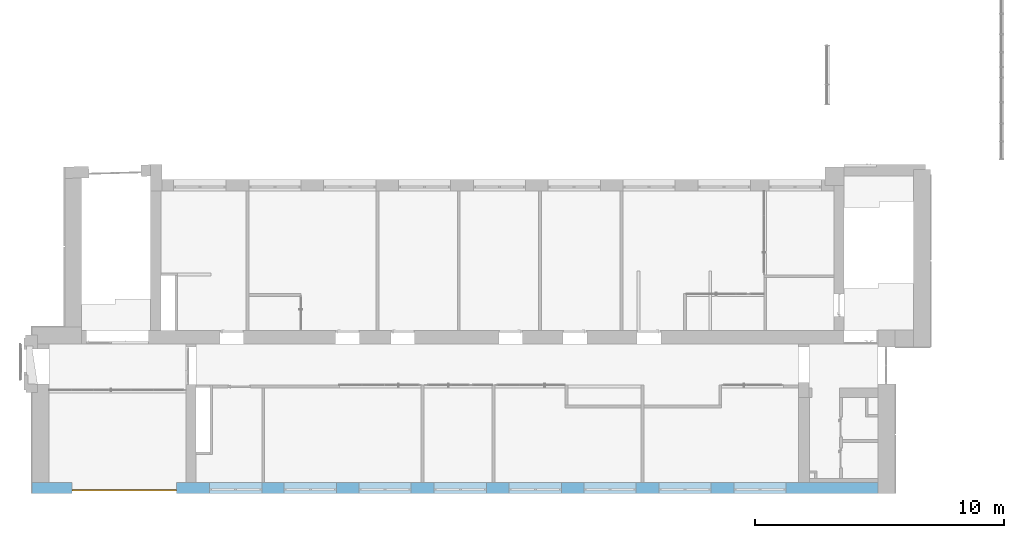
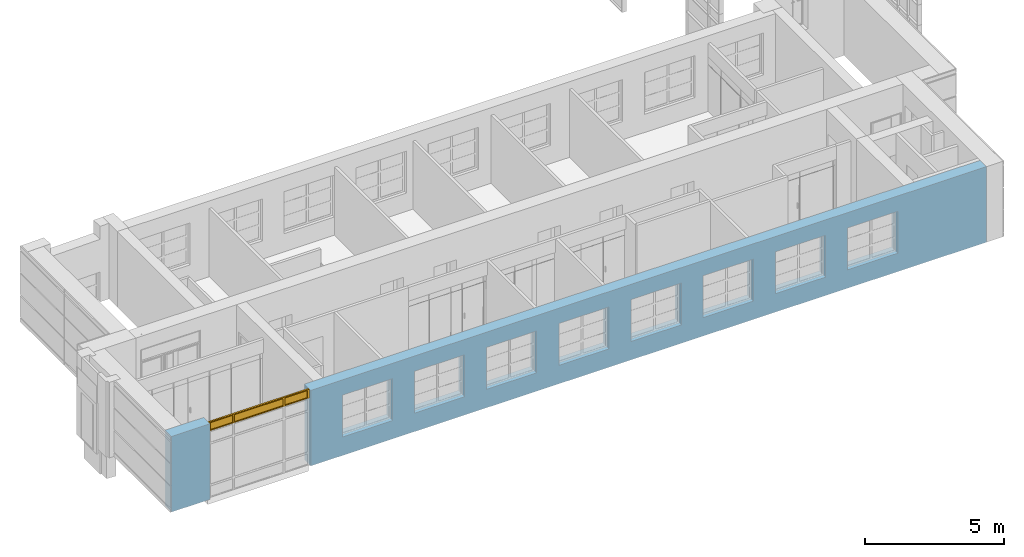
# One storey, part 54 of 73: 1 window, 10 openings, plus 1 element that does not belong to this part.
"""IFC2X3 building model written with IfcOpenShell, lengths in millimetres."""

from ifc_helpers import new_model, entity, si_unit, converted_unit, derived_unit, direction, frame, frame_2d, origin, origin_2d_with_axis, place, context, subcontext, project, spatial, rectangle, extrude, source, transform, mapped, material, material_list, layer, layer_set, layer_usage, type_object, type_shapes, element, fill, save


model = new_model("IFC2X3")

# Units and contexts
model_context = context("Model", 3, precision=0.01, world=origin(), true_north=direction((6.12303176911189e-17, 1.0)))
body_context = subcontext(model_context, "Body", "Model", "MODEL_VIEW")
ifc_project = project(units=[si_unit("LENGTHUNIT", "METRE", prefix="MILLI"), si_unit("AREAUNIT", "SQUARE_METRE"), si_unit("VOLUMEUNIT", "CUBIC_METRE"), converted_unit("PLANEANGLEUNIT", "DEGREE", entity("IfcRatioMeasure", 0.0174532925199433), si_unit("PLANEANGLEUNIT", "RADIAN"), dimensions=[0, 0, 0, 0, 0, 0, 0]), si_unit("MASSUNIT", "GRAM", prefix="KILO"), derived_unit("MASSDENSITYUNIT", [(si_unit("MASSUNIT", "GRAM", prefix="KILO"), 1), (si_unit("LENGTHUNIT", "METRE"), -3)]), si_unit("TIMEUNIT", "SECOND"), si_unit("FREQUENCYUNIT", "HERTZ"), si_unit("THERMODYNAMICTEMPERATUREUNIT", "DEGREE_CELSIUS"), derived_unit("THERMALTRANSMITTANCEUNIT", [(si_unit("MASSUNIT", "GRAM", prefix="KILO"), 1), (si_unit("THERMODYNAMICTEMPERATUREUNIT", "KELVIN"), -1), (si_unit("TIMEUNIT", "SECOND"), -3)]), derived_unit("VOLUMETRICFLOWRATEUNIT", [(si_unit("LENGTHUNIT", "METRE"), 3), (si_unit("TIMEUNIT", "SECOND"), -1)]), si_unit("ELECTRICCURRENTUNIT", "AMPERE"), si_unit("ELECTRICVOLTAGEUNIT", "VOLT"), si_unit("POWERUNIT", "WATT"), si_unit("FORCEUNIT", "NEWTON", prefix="KILO"), si_unit("ILLUMINANCEUNIT", "LUX"), si_unit("LUMINOUSFLUXUNIT", "LUMEN"), si_unit("LUMINOUSINTENSITYUNIT", "CANDELA"), derived_unit("USERDEFINED", [(si_unit("MASSUNIT", "GRAM", prefix="KILO"), -1), (si_unit("LENGTHUNIT", "METRE"), -2), (si_unit("TIMEUNIT", "SECOND"), 3), (si_unit("LUMINOUSFLUXUNIT", "LUMEN"), 1)]), derived_unit("LINEARVELOCITYUNIT", [(si_unit("LENGTHUNIT", "METRE"), 1), (si_unit("TIMEUNIT", "SECOND"), -1)]), si_unit("PRESSUREUNIT", "PASCAL"), derived_unit("USERDEFINED", [(si_unit("LENGTHUNIT", "METRE"), -2), (si_unit("MASSUNIT", "GRAM", prefix="KILO"), 1), (si_unit("TIMEUNIT", "SECOND"), -2)])], contexts=[model_context])

# Site, building, storey
site_placement = place(None, frame((-151.875543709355, 2715.0, 0.0)))
site = spatial("IfcSite", under=ifc_project, at=site_placement, Name="Surface", CompositionType="ELEMENT")
building_placement = place(site_placement, origin())
building = spatial("IfcBuilding", under=site, at=building_placement, CompositionType="ELEMENT")
storey_placement = place(building_placement, frame((0.0, 0.0, 6730.43000000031)))
storey = spatial("IfcBuildingStorey", under=building, at=storey_placement, Name="3 korrus", CompositionType="ELEMENT", Elevation=6730.43000000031)

# Wall, openings, window
ifc_material_1 = material(Name="Brick, Common")
ifc_layer_1 = layer(ifc_material_1, 440.0)
ifc_material_2 = material(Name="__Kips GN13_tava")
ifc_layer_2 = layer(ifc_material_2, 20.0)
ifc_layer_set = layer_set([ifc_layer_1, ifc_layer_2], Name="Basic Wall:VS-1")
ifc_layer_usage = layer_usage(ifc_layer_set, "AXIS2", "NEGATIVE", 230.0)
wall_type = type_object("IfcWallType", Name="Basic Wall:VS-1", PredefinedType="STANDARD", material=ifc_layer_set)
wall_placement = place(storey_placement, frame((33741.6162682, 229.904632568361, 0.00203353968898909), z_axis=(0.0, 0.0, 1.0), x_axis=(-1.0, 0.0, 0.0)))
wall = element("IfcWallStandardCase", 1, at=wall_placement, inside=storey, type_object=wall_type, material=ifc_layer_usage, Name="SEIN - 001", ObjectType="Basic Wall:VS-1", context=body_context, shape_type="SweptSolid", body=[
    extrude(rectangle(XDim=33960.7407226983, YDim=460.0, at=frame_2d((16980.3703613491, 0.0), x_axis=(-1.0, 0.0))), origin(), (0.0, 0.0, 1.0), 3329.56796646),
])
opening_1_placement = place(wall_placement, frame((33741.6162682, 229.904632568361, -0.00203353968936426), z_axis=(0.0, 0.0, 1.0), x_axis=(-1.0, 0.0, 0.0)))
element("IfcOpeningElement", 2, at=opening_1_placement, cuts=wall, Name="SEIN - 001", ObjectType="Opening", context=body_context, shape_type="SweptSolid", body=[
    extrude(rectangle(XDim=2934.86776352, YDim=4200.0, at=frame_2d((2.27373675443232e-13, -5.6843418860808e-13), x_axis=(0.0, 1.0))), frame((3483.85381698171, 928.104632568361, 1467.43591529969), z_axis=(0.0, -1.0, 0.0), x_axis=(-1.0, 0.0, 0.0)), (0.0, 0.0, 1.0), 1393.8),
])
opening_2_placement = place(wall_placement, frame((33741.6162682, 229.904632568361, -0.00203353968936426), z_axis=(0.0, 0.0, 1.0), x_axis=(-1.0, 0.0, 0.0)))
opening_2 = element("IfcOpeningElement", 3, at=opening_2_placement, cuts=wall, Name="SEIN - 001", ObjectType="Opening", context=body_context, shape_type="SweptSolid", body=[
    extrude(rectangle(XDim=394.700202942, YDim=4200.0, at=frame_2d((-5.40012479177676e-13, 0.0), x_axis=(1.0, 0.0))), frame((3483.85381698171, 928.104632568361, 3132.21989853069), z_axis=(0.0, -1.0, 0.0), x_axis=(0.0, 0.0, -1.0)), (0.0, 0.0, 1.0), 1393.8),
])
opening_3_placement = place(wall_placement, frame((33741.6162682, 229.904632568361, -0.00203353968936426), z_axis=(0.0, 0.0, 1.0), x_axis=(-1.0, 0.0, 0.0)))
element("IfcOpeningElement", 4, at=opening_3_placement, cuts=wall, Name="SEIN - 001", ObjectType="Opening", context=body_context, shape_type="SweptSolid", body=[
    extrude(rectangle(XDim=1850.0, YDim=2100.0, at=frame_2d((0.0, 1.02318153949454e-12), x_axis=(1.0, 0.0))), frame((10949.5647264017, 927.804632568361, 1734.63072998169), z_axis=(0.0, -1.0, 0.0), x_axis=(0.0, 0.0, 1.0)), (0.0, 0.0, 1.0), 1393.8),
])
opening_4_placement = place(wall_placement, frame((33741.6162682, 229.904632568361, -0.00203353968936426), z_axis=(0.0, 0.0, 1.0), x_axis=(-1.0, 0.0, 0.0)))
element("IfcOpeningElement", 5, at=opening_4_placement, cuts=wall, Name="SEIN - 001", ObjectType="Opening", context=body_context, shape_type="SweptSolid", body=[
    extrude(rectangle(XDim=1850.0, YDim=2100.0, at=frame_2d((0.0, 5.6843418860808e-13), x_axis=(1.0, 0.0))), frame((7949.56472636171, 927.804632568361, 1734.63072998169), z_axis=(0.0, -1.0, 0.0), x_axis=(0.0, 0.0, 1.0)), (0.0, 0.0, 1.0), 1393.8),
])
opening_5_placement = place(wall_placement, frame((33741.6162682, 229.904632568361, -0.00203353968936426), z_axis=(0.0, 0.0, 1.0), x_axis=(-1.0, 0.0, 0.0)))
element("IfcOpeningElement", 6, at=opening_5_placement, cuts=wall, Name="SEIN - 001", ObjectType="Opening", context=body_context, shape_type="SweptSolid", body=[
    extrude(rectangle(XDim=1850.0, YDim=2100.0, at=origin_2d_with_axis()), frame((13949.5647264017, 927.804632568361, 1734.63072998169), z_axis=(0.0, -1.0, 0.0), x_axis=(0.0, 0.0, 1.0)), (0.0, 0.0, 1.0), 1393.8),
])
opening_6_placement = place(wall_placement, frame((33741.6162682, 229.904632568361, -0.00203353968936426), z_axis=(0.0, 0.0, 1.0), x_axis=(-1.0, 0.0, 0.0)))
element("IfcOpeningElement", 7, at=opening_6_placement, cuts=wall, Name="SEIN - 001", ObjectType="Opening", context=body_context, shape_type="SweptSolid", body=[
    extrude(rectangle(XDim=1850.0, YDim=2100.0, at=frame_2d((0.0, 1.02318153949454e-12), x_axis=(1.0, 0.0))), frame((16969.5647264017, 927.804632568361, 1734.63072998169), z_axis=(0.0, -1.0, 0.0), x_axis=(0.0, 0.0, 1.0)), (0.0, 0.0, 1.0), 1393.8),
])
opening_7_placement = place(wall_placement, frame((33741.6162682, 229.904632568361, -0.00203353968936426), z_axis=(0.0, 0.0, 1.0), x_axis=(-1.0, 0.0, 0.0)))
element("IfcOpeningElement", 8, at=opening_7_placement, cuts=wall, Name="SEIN - 001", ObjectType="Opening", context=body_context, shape_type="SweptSolid", body=[
    extrude(rectangle(XDim=1850.0, YDim=2100.0, at=origin_2d_with_axis()), frame((19979.5647264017, 927.804632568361, 1734.63072998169), z_axis=(0.0, -1.0, 0.0), x_axis=(0.0, 0.0, 1.0)), (0.0, 0.0, 1.0), 1393.8),
])
opening_8_placement = place(wall_placement, frame((33741.6162682, 229.904632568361, -0.00203353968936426), z_axis=(0.0, 0.0, 1.0), x_axis=(-1.0, 0.0, 0.0)))
element("IfcOpeningElement", 9, at=opening_8_placement, cuts=wall, Name="SEIN - 001", ObjectType="Opening", context=body_context, shape_type="SweptSolid", body=[
    extrude(rectangle(XDim=1850.0, YDim=2100.0, at=origin_2d_with_axis()), frame((22979.5647264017, 927.804632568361, 1734.63072998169), z_axis=(0.0, -1.0, 0.0), x_axis=(0.0, 0.0, 1.0)), (0.0, 0.0, 1.0), 1393.8),
])
opening_9_placement = place(wall_placement, frame((33741.6162682, 229.904632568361, -0.00203353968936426), z_axis=(0.0, 0.0, 1.0), x_axis=(-1.0, 0.0, 0.0)))
element("IfcOpeningElement", 10, at=opening_9_placement, cuts=wall, Name="SEIN - 001", ObjectType="Opening", context=body_context, shape_type="SweptSolid", body=[
    extrude(rectangle(XDim=1850.0, YDim=2100.0, at=origin_2d_with_axis()), frame((25989.5647264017, 927.804632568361, 1734.63072998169), z_axis=(0.0, -1.0, 0.0), x_axis=(0.0, 0.0, 1.0)), (0.0, 0.0, 1.0), 1393.8),
])
opening_10_placement = place(wall_placement, frame((33741.6162682, 229.904632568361, -0.00203353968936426), z_axis=(0.0, 0.0, 1.0), x_axis=(-1.0, 0.0, 0.0)))
element("IfcOpeningElement", 11, at=opening_10_placement, cuts=wall, Name="SEIN - 001", ObjectType="Opening", context=body_context, shape_type="SweptSolid", body=[
    extrude(rectangle(XDim=1850.0, YDim=2100.0, at=origin_2d_with_axis()), frame((28999.5647264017, 927.804632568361, 1734.63072998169), z_axis=(0.0, -1.0, 0.0), x_axis=(0.0, 0.0, 1.0)), (0.0, 0.0, 1.0), 1393.8),
])
ifc_material_3 = material(Name="Paint - Light Gray")
ifc_material_4 = material(Name="Paint - Titanium White")
ifc_material_5 = material(Name="Paint - Dark Gray")
ifc_material_list_1 = material_list([ifc_material_3, ifc_material_4, ifc_material_5])
ifc_material_list_2 = material_list([ifc_material_3, ifc_material_4, ifc_material_5])
window_style = type_object("IfcWindowStyle", Name="AKEN - 001", ConstructionType="NOTDEFINED", OperationType="NOTDEFINED", ParameterTakesPrecedence=False, Sizeable=False, material=ifc_material_list_2)
shared_shape = source(origin(), body_context, "Body", "SweptSolid", [
    extrude(rectangle(XDim=50.0, YDim=930.40893555, at=origin_2d_with_axis()), frame((3654.795532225, 610.6, 40.0), z_axis=(0.0, 0.0, 1.0), x_axis=(0.0, -1.0, 0.0)), (0.0, 0.0, 1.0), 314.700202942),
    extrude(rectangle(XDim=50.0, YDim=2020.0, at=origin_2d_with_axis()), frame((2099.59106445, 610.6, 40.0), z_axis=(0.0, 0.0, 1.0), x_axis=(0.0, -1.0, 0.0)), (0.0, 0.0, 1.0), 314.700202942),
    extrude(rectangle(XDim=50.0, YDim=929.59106445, at=frame_2d((0.0, 5.6843418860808e-14), x_axis=(1.0, 0.0))), frame((544.795532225, 610.6, 40.0), z_axis=(0.0, 0.0, 1.0), x_axis=(0.0, -1.0, 0.0)), (0.0, 0.0, 1.0), 314.700202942),
    extrude(rectangle(XDim=40.0, YDim=4200.0, at=frame_2d((-0.163574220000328, 12.0), x_axis=(0.0, 1.0))), frame((2099.83642578, 610.6, 362.700202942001), z_axis=(0.0, 1.0, 0.0), x_axis=(-1.0, 0.0, 0.0)), (0.0, 0.0, 1.0), 25.0),
    extrude(rectangle(XDim=40.0, YDim=4200.0, at=frame_2d((0.163574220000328, 12.0), x_axis=(0.0, 1.0))), frame((2099.83642578, 610.6, 32.0), z_axis=(0.0, 1.0, 0.0), x_axis=(1.0, 0.0, 0.0)), (0.0, 0.0, 1.0), 25.0),
    extrude(rectangle(XDim=25.0, YDim=80.0, at=origin_2d_with_axis()), frame((1049.59106445, 623.1, 40.0), z_axis=(0.0, 0.0, 1.0), x_axis=(0.0, -1.0, 0.0)), (0.0, 0.0, 1.0), 314.700202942),
    extrude(rectangle(XDim=25.0, YDim=79.9999999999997, at=origin_2d_with_axis()), frame((3149.59106445, 623.1, 40.0), z_axis=(0.0, 0.0, 1.0), x_axis=(0.0, -1.0, 0.0)), (0.0, 0.0, 1.0), 314.700202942),
    extrude(rectangle(XDim=25.0, YDim=80.0000000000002, at=origin_2d_with_axis()), frame((4160.0, 623.1, 40.0), z_axis=(0.0, 0.0, 1.0), x_axis=(0.0, -1.0, 0.0)), (0.0, 0.0, 1.0), 314.700202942),
    extrude(rectangle(XDim=25.0, YDim=80.0, at=frame_2d((0.0, -1.35003119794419e-13), x_axis=(1.0, 0.0))), frame((40.0, 623.1, 40.0), z_axis=(0.0, 0.0, 1.0), x_axis=(0.0, -1.0, 0.0)), (0.0, 0.0, 1.0), 314.700202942),
    extrude(rectangle(XDim=40.0, YDim=4200.0, at=frame_2d((-0.163574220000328, 12.0), x_axis=(0.0, 1.0))), frame((2099.83642578, 565.6, 362.700202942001), z_axis=(0.0, 1.0, 0.0), x_axis=(-1.0, 0.0, 0.0)), (0.0, 0.0, 1.0), 45.0),
    extrude(rectangle(XDim=40.0, YDim=4200.0, at=frame_2d((0.163574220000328, 12.0), x_axis=(0.0, 1.0))), frame((2099.83642578, 565.6, 32.0), z_axis=(0.0, 1.0, 0.0), x_axis=(1.0, 0.0, 0.0)), (0.0, 0.0, 1.0), 45.0),
    extrude(rectangle(XDim=45.0, YDim=80.0, at=origin_2d_with_axis()), frame((1049.59106445, 588.1, 40.0), z_axis=(0.0, 0.0, 1.0), x_axis=(0.0, -1.0, 0.0)), (0.0, 0.0, 1.0), 314.700202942),
    extrude(rectangle(XDim=45.0, YDim=79.9999999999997, at=origin_2d_with_axis()), frame((3149.59106445, 588.1, 40.0), z_axis=(0.0, 0.0, 1.0), x_axis=(0.0, -1.0, 0.0)), (0.0, 0.0, 1.0), 314.700202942),
    extrude(rectangle(XDim=45.0, YDim=80.0000000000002, at=origin_2d_with_axis()), frame((4160.0, 588.1, 40.0), z_axis=(0.0, 0.0, 1.0), x_axis=(0.0, -1.0, 0.0)), (0.0, 0.0, 1.0), 314.700202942),
    extrude(rectangle(XDim=45.0, YDim=80.0, at=frame_2d((0.0, -1.35003119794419e-13), x_axis=(1.0, 0.0))), frame((40.0, 588.1, 40.0), z_axis=(0.0, 0.0, 1.0), x_axis=(0.0, -1.0, 0.0)), (0.0, 0.0, 1.0), 314.700202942),
])
type_shapes(window_style, [shared_shape])
window_placement = place(opening_2_placement, frame((1383.85381698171, -465.695367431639, 2934.86979705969)))
window = element("IfcWindow", 12, at=window_placement, inside=storey, type_object=window_style, material=ifc_material_list_1, Name="AKEN - 001 109507:AKEN - 001 109507", ObjectType="AKEN - 001 109507", OverallHeight=4200.0, OverallWidth=394.700202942, context=body_context, shape_type="MappedRepresentation", body=[
    mapped(shared_shape, transform((0.0, 0.0, 0.0), scale=1.0)),
])
fill(opening_2, window)

save(model, "model.ifc")
